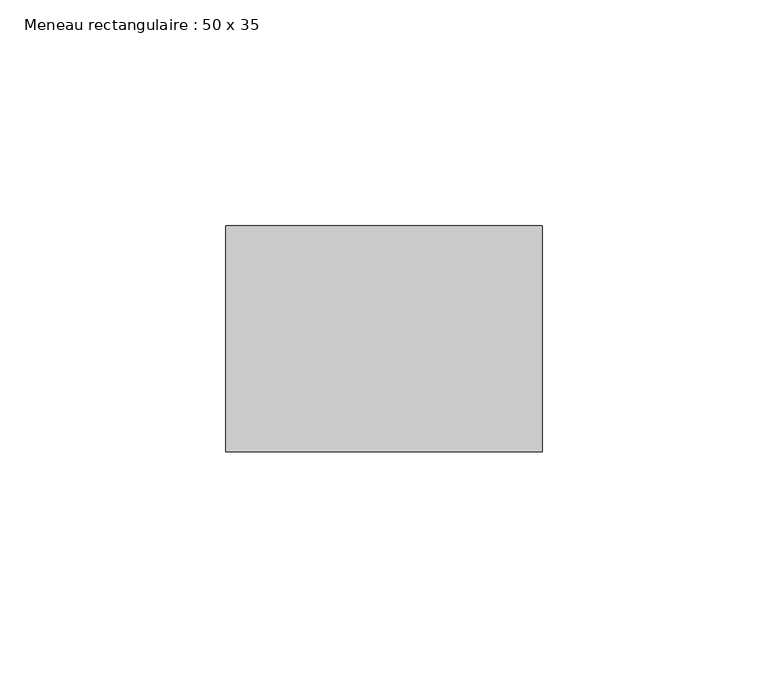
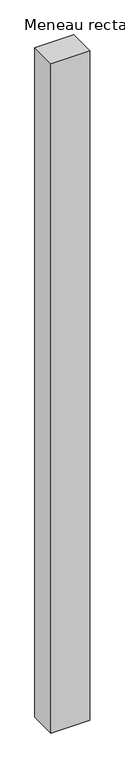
"""IFC4 building model written with IfcOpenShell, lengths in millimetres: member geometry, Meneau rectangulaire : 50 x 35."""

from ifc_helpers import new_model, si_unit, frame, origin, place, context, project, spatial, polyline, outline, extrude, source, transform, mapped, element, save


def meneau_rectangulaire_50_x_35_03c7ac83(model_context):
    return source(origin(), model_context, "Body", "SweptSolid", [
        extrude(outline(polyline([(35.0, 0.0), (35.0, -50.0), (-35.0, -50.0), (-35.0, 0.0), (35.0, 0.0)])), frame((0.0, 0.0, -1277.6442441), z_axis=(0.0, 0.0, 1.0), x_axis=(1.0, 0.0, 0.0)), (0.0, 0.0, 1.0), 1277.6442441),
    ])


if __name__ == "__main__":
    model = new_model("IFC4")
    model_context = context("Model", 3, world=origin())
    ifc_project = project(units=[si_unit("LENGTHUNIT", "METRE", prefix="MILLI")], contexts=[model_context])
    site = spatial("IfcSite", under=ifc_project)
    building = spatial("IfcBuilding", under=site)
    placement = place(None, origin())
    meneau_rectangulaire_50_x_35_shape = meneau_rectangulaire_50_x_35_03c7ac83(model_context)
    element("IfcMember", 1, ObjectType="Meneau rectangulaire : 50 x 35", at=placement, inside=building, context=model_context, shape_type="MappedRepresentation", body=[
        mapped(meneau_rectangulaire_50_x_35_shape, transform((0.0, 0.0, 0.0), x_axis=(1.0, 0.0, 0.0), y_axis=(0.0, 1.0, 0.0), z_axis=(0.0, 0.0, 1.0))),
    ])
    save(model, "model.ifc")
